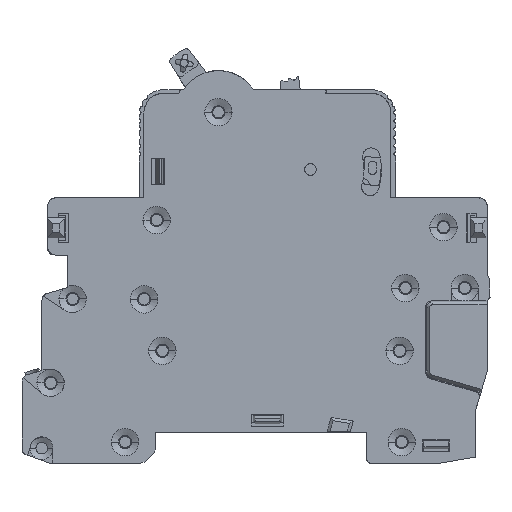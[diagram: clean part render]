
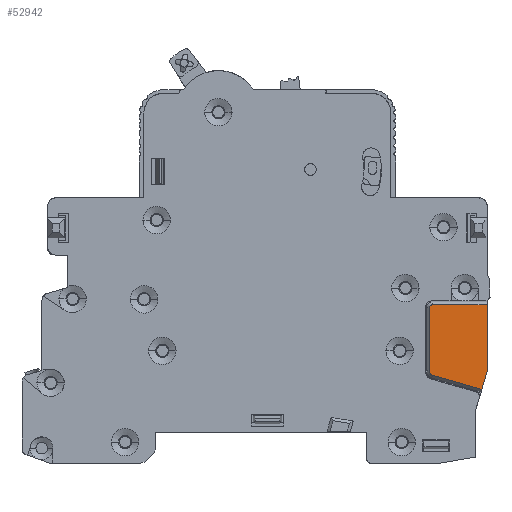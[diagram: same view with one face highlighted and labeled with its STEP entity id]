
A CAD part, left-side view. The second image highlights one B-rep face of the part: STEP entity #52942.
In plain terms, the highlighted planar face has unit normal (-1, 0, 0) as drawn and (0, 0, 1) by its records, which use the part's own axes.
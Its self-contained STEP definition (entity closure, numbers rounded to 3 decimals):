
#1141 = ORIENTED_EDGE ( 'NONE', *, *, #68154, .T. ) ;
#6347 = CARTESIAN_POINT ( 'NONE',  ( 102.308, 17.687, 1.1 ) ) ;
#7106 = VERTEX_POINT ( 'NONE', #67370 ) ;
#7230 = VERTEX_POINT ( 'NONE', #42664 ) ;
#7289 = CARTESIAN_POINT ( 'NONE',  ( 101.369, 14.5, 1.1 ) ) ;
#8745 = CARTESIAN_POINT ( 'NONE',  ( 92.958, 17.75, 1.1 ) ) ;
#9569 = DIRECTION ( 'NONE',  ( 0., 0., 1. ) ) ;
#9666 = ORIENTED_EDGE ( 'NONE', *, *, #30820, .T. ) ;
#10925 = PLANE ( 'NONE',  #79491 ) ;
#11820 = ORIENTED_EDGE ( 'NONE', *, *, #17458, .T. ) ;
#12063 = CARTESIAN_POINT ( 'NONE',  ( 92.737, 16.981, 1.1 ) ) ;
#16854 = VERTEX_POINT ( 'NONE', #32428 ) ;
#17316 = FACE_OUTER_BOUND ( 'NONE', #52167, .T. ) ;
#17458 = EDGE_CURVE ( 'NONE', #16854, #61926, #47916, .T. ) ;
#18048 = DIRECTION ( 'NONE',  ( 0.961, -0.276, 0. ) ) ;
#18471 = LINE ( 'NONE', #58090, #46403 ) ;
#20076 = CARTESIAN_POINT ( 'NONE',  ( 92.158, 28.839, 1.1 ) ) ;
#20177 = AXIS2_PLACEMENT_3D ( 'NONE', #59919, #47544, #79893 ) ;
#20785 = DIRECTION ( 'NONE',  ( -1., 0., 0. ) ) ;
#21616 = LINE ( 'NONE', #78694, #56877 ) ;
#24810 = VECTOR ( 'NONE', #71614, 1000. ) ;
#25852 = ORIENTED_EDGE ( 'NONE', *, *, #46424, .T. ) ;
#30820 = EDGE_CURVE ( 'NONE', #50709, #7230, #33780, .T. ) ;
#30928 = DIRECTION ( 'NONE',  ( 0., 0., 1. ) ) ;
#32210 = CARTESIAN_POINT ( 'NONE',  ( 101.369, 14.5, 1.1 ) ) ;
#32428 = CARTESIAN_POINT ( 'NONE',  ( 92.158, 17.75, 1.1 ) ) ;
#33270 = LINE ( 'NONE', #20076, #24810 ) ;
#33345 = DIRECTION ( 'NONE',  ( 0., 1., 0. ) ) ;
#33780 = CIRCLE ( 'NONE', #20177, 0.5 ) ;
#35707 = AXIS2_PLACEMENT_3D ( 'NONE', #8745, #9569, #47914 ) ;
#36913 = CARTESIAN_POINT ( 'NONE',  ( 63.641, -54.231, 1.1 ) ) ;
#37046 = VECTOR ( 'NONE', #83713, 1000. ) ;
#38441 = CARTESIAN_POINT ( 'NONE',  ( 92.737, 16.981, 1.1 ) ) ;
#42664 = CARTESIAN_POINT ( 'NONE',  ( 92.158, 28.839, 1.1 ) ) ;
#42973 = VERTEX_POINT ( 'NONE', #6347 ) ;
#45109 = EDGE_CURVE ( 'NONE', #42973, #7106, #18471, .T. ) ;
#46403 = VECTOR ( 'NONE', #33345, 1000. ) ;
#46408 = VECTOR ( 'NONE', #18048, 1000. ) ;
#46424 = EDGE_CURVE ( 'NONE', #7230, #16854, #33270, .T. ) ;
#47544 = DIRECTION ( 'NONE',  ( 0., 0., 1. ) ) ;
#47914 = DIRECTION ( 'NONE',  ( -1., 0., 0. ) ) ;
#47916 = CIRCLE ( 'NONE', #35707, 0.8 ) ;
#49117 = EDGE_CURVE ( 'NONE', #59728, #42973, #76923, .T. ) ;
#50709 = VERTEX_POINT ( 'NONE', #77677 ) ;
#52167 = EDGE_LOOP ( 'NONE', ( #9666, #25852, #11820, #1141, #73391, #70816, #79160 ) ) ;
#52942 = ADVANCED_FACE ( 'NONE', ( #17316 ), #10925, .T. ) ;
#56877 = VECTOR ( 'NONE', #20785, 1000. ) ;
#58090 = CARTESIAN_POINT ( 'NONE',  ( 102.308, 17.687, 1.1 ) ) ;
#59728 = VERTEX_POINT ( 'NONE', #7289 ) ;
#59919 = CARTESIAN_POINT ( 'NONE',  ( 92.658, 28.839, 1.1 ) ) ;
#61926 = VERTEX_POINT ( 'NONE', #38441 ) ;
#62906 = DIRECTION ( 'NONE',  ( 1., 0., 0. ) ) ;
#63064 = EDGE_CURVE ( 'NONE', #7106, #50709, #21616, .T. ) ;
#67370 = CARTESIAN_POINT ( 'NONE',  ( 102.308, 29.339, 1.1 ) ) ;
#68154 = EDGE_CURVE ( 'NONE', #61926, #59728, #74263, .T. ) ;
#70816 = ORIENTED_EDGE ( 'NONE', *, *, #45109, .T. ) ;
#71614 = DIRECTION ( 'NONE',  ( 0., -1., 0. ) ) ;
#73391 = ORIENTED_EDGE ( 'NONE', *, *, #49117, .T. ) ;
#74263 = LINE ( 'NONE', #12063, #46408 ) ;
#76923 = LINE ( 'NONE', #32210, #37046 ) ;
#77677 = CARTESIAN_POINT ( 'NONE',  ( 92.658, 29.339, 1.1 ) ) ;
#78694 = CARTESIAN_POINT ( 'NONE',  ( 102.308, 29.339, 1.1 ) ) ;
#79160 = ORIENTED_EDGE ( 'NONE', *, *, #63064, .T. ) ;
#79491 = AXIS2_PLACEMENT_3D ( 'NONE', #36913, #30928, #62906 ) ;
#79893 = DIRECTION ( 'NONE',  ( 0., 1., 0. ) ) ;
#83713 = DIRECTION ( 'NONE',  ( 0.283, 0.959, 0. ) ) ;
